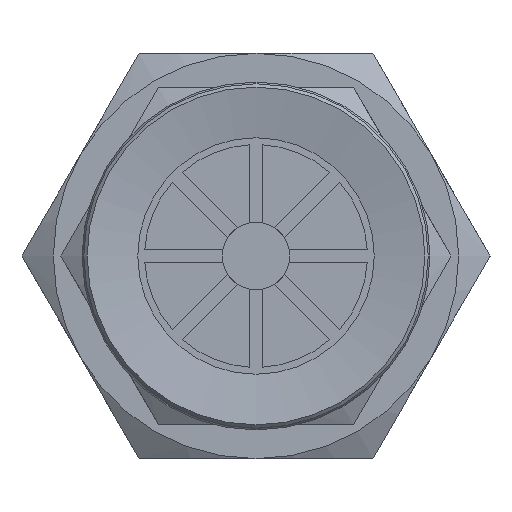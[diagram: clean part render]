
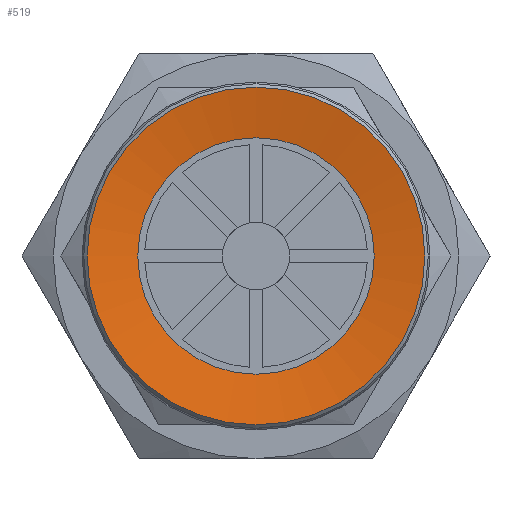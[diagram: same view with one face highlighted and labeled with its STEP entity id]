
A CAD part, front view. The second image highlights one B-rep face of the part: STEP entity #519.
In plain terms, the highlighted conical face has half-angle 80 degrees and reference radius 5 mm.
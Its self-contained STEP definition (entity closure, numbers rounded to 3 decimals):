
#519=ADVANCED_FACE('',(#842,#843),#844,.F.);
#842=FACE_BOUND('',#1199,.T.);
#843=FACE_OUTER_BOUND('',#1200,.T.);
#844=CONICAL_SURFACE('',#1201,5.0,1.396);
#1199=EDGE_LOOP('',(#2111));
#1200=EDGE_LOOP('',(#2112));
#1201=AXIS2_PLACEMENT_3D('',#2113,#2114,#2115);
#2111=ORIENTED_EDGE('',*,*,#2596,.T.);
#2112=ORIENTED_EDGE('',*,*,#2597,.F.);
#2113=CARTESIAN_POINT('',(0.0,0.,0.));
#2114=DIRECTION('',(0.0,0.,-1.0));
#2115=DIRECTION('',(0.0,1.0,0.));
#2596=EDGE_CURVE('',#3101,#3101,#3102,.T.);
#2597=EDGE_CURVE('',#3103,#3103,#3104,.T.);
#3101=VERTEX_POINT('',#4083);
#3102=CIRCLE('',#4084,3.5);
#3103=VERTEX_POINT('',#4085);
#3104=CIRCLE('',#4086,5.0);
#4083=CARTESIAN_POINT('',(0.0,-3.5,0.264));
#4084=AXIS2_PLACEMENT_3D('',#4576,#4577,#4578);
#4085=CARTESIAN_POINT('',(0.0,-5.0,0.));
#4086=AXIS2_PLACEMENT_3D('',#4579,#4580,#4581);
#4576=CARTESIAN_POINT('',(0.0,0.,0.264));
#4577=DIRECTION('',(0.0,0.,1.0));
#4578=DIRECTION('',(0.0,-1.0,0.));
#4579=CARTESIAN_POINT('',(0.0,0.,0.));
#4580=DIRECTION('',(0.0,0.,1.0));
#4581=DIRECTION('',(0.0,-1.0,0.));
